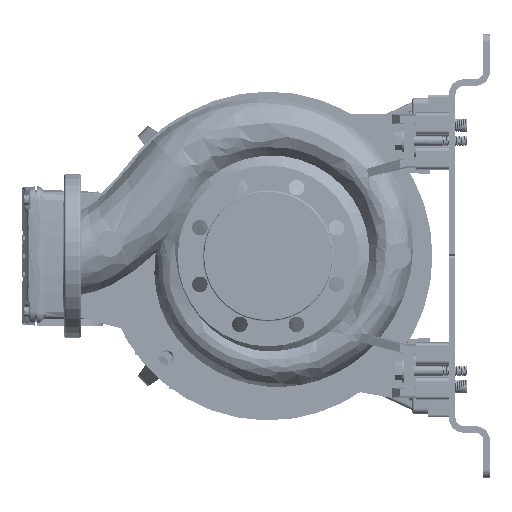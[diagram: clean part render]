
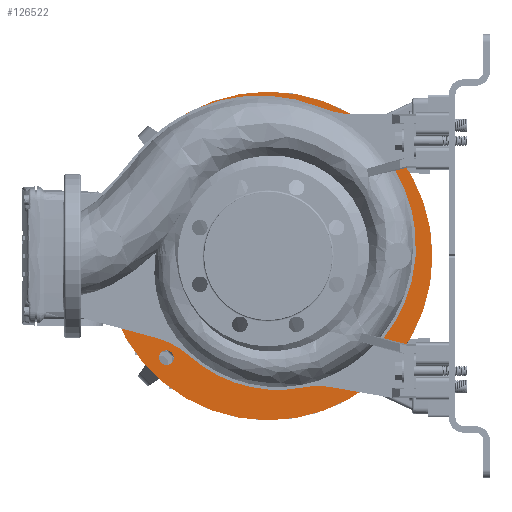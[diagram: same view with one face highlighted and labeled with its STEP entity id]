
A CAD part, left-side view. The second image highlights one B-rep face of the part: STEP entity #126522.
In plain terms, the highlighted planar face has unit normal (-1, 0, 0).
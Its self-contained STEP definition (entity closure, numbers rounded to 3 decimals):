
#533 = DIRECTION ( 'NONE',  ( 1., 0., 0. ) ) ;
#1038 = ORIENTED_EDGE ( 'NONE', *, *, #238441, .T. ) ;
#2653 = AXIS2_PLACEMENT_3D ( 'NONE', #82427, #57229, #98044 ) ;
#3951 = CARTESIAN_POINT ( 'NONE',  ( 249.002, -123.744, 123.745 ) ) ;
#4901 = CARTESIAN_POINT ( 'NONE',  ( 249.002, -151.792, -16.437 ) ) ;
#7619 = AXIS2_PLACEMENT_3D ( 'NONE', #135448, #27248, #72187 ) ;
#8001 = CIRCLE ( 'NONE', #191843, 9. ) ;
#16178 = VERTEX_POINT ( 'NONE', #194541 ) ;
#17540 = FACE_OUTER_BOUND ( 'NONE', #89425, .T. ) ;
#18216 = CARTESIAN_POINT ( 'NONE',  ( 249.002, 123.744, -114.743 ) ) ;
#23103 = FACE_BOUND ( 'NONE', #183301, .T. ) ;
#25611 = CIRCLE ( 'NONE', #191625, 9. ) ;
#27183 = DIRECTION ( 'NONE',  ( 1., 0., 0. ) ) ;
#27248 = DIRECTION ( 'NONE',  ( 1., 0., 0. ) ) ;
#29049 = AXIS2_PLACEMENT_3D ( 'NONE', #208085, #101436, #77582 ) ;
#31453 = ORIENTED_EDGE ( 'NONE', *, *, #219765, .T. ) ;
#33744 = ORIENTED_EDGE ( 'NONE', *, *, #76586, .T. ) ;
#36986 = CIRCLE ( 'NONE', #211801, 23.5 ) ;
#38100 = EDGE_CURVE ( 'NONE', #210175, #260232, #8001, .T. ) ;
#40981 = CIRCLE ( 'NONE', #251649, 9. ) ;
#46985 = FACE_BOUND ( 'NONE', #236104, .T. ) ;
#54430 = DIRECTION ( 'NONE',  ( 0., 0., 1. ) ) ;
#57229 = DIRECTION ( 'NONE',  ( 1., 0., 0. ) ) ;
#57372 = CARTESIAN_POINT ( 'NONE',  ( 249.002, -123.744, -123.743 ) ) ;
#58394 = CARTESIAN_POINT ( 'NONE',  ( 249.002, 0., 152.681 ) ) ;
#60976 = AXIS2_PLACEMENT_3D ( 'NONE', #143013, #224475, #140253 ) ;
#61161 = VERTEX_POINT ( 'NONE', #58394 ) ;
#61845 = AXIS2_PLACEMENT_3D ( 'NONE', #57372, #143067, #117858 ) ;
#63765 = CARTESIAN_POINT ( 'NONE',  ( 249.002, -134.998, 0.001 ) ) ;
#71184 = CARTESIAN_POINT ( 'NONE',  ( 249.002, 0., 0.001 ) ) ;
#71793 = DIRECTION ( 'NONE',  ( 0., 0., -1. ) ) ;
#72187 = DIRECTION ( 'NONE',  ( 0., 0., 1. ) ) ;
#76586 = EDGE_CURVE ( 'NONE', #16178, #194976, #25611, .T. ) ;
#77582 = DIRECTION ( 'NONE',  ( 0., 0., 1. ) ) ;
#77639 = CARTESIAN_POINT ( 'NONE',  ( 249.002, 123.744, -123.743 ) ) ;
#78760 = CARTESIAN_POINT ( 'NONE',  ( 249.002, 0., -152.678 ) ) ;
#79588 = ORIENTED_EDGE ( 'NONE', *, *, #38100, .T. ) ;
#79685 = AXIS2_PLACEMENT_3D ( 'NONE', #108840, #191681, #89160 ) ;
#80454 = CARTESIAN_POINT ( 'NONE',  ( 249.002, -123.744, -114.743 ) ) ;
#82427 = CARTESIAN_POINT ( 'NONE',  ( 249.002, 0., 0.001 ) ) ;
#85590 = AXIS2_PLACEMENT_3D ( 'NONE', #195457, #174388, #71793 ) ;
#87227 = EDGE_CURVE ( 'NONE', #254896, #181186, #108827, .T. ) ;
#89160 = DIRECTION ( 'NONE',  ( 0., 0., 1. ) ) ;
#89425 = EDGE_LOOP ( 'NONE', ( #167694, #212990 ) ) ;
#92013 = EDGE_LOOP ( 'NONE', ( #141711, #172635 ) ) ;
#94046 = AXIS2_PLACEMENT_3D ( 'NONE', #268407, #161739, #115484 ) ;
#94549 = ORIENTED_EDGE ( 'NONE', *, *, #208841, .T. ) ;
#98044 = DIRECTION ( 'NONE',  ( 0., 0., -1. ) ) ;
#101436 = DIRECTION ( 'NONE',  ( 1., 0., 0. ) ) ;
#103298 = FACE_BOUND ( 'NONE', #122072, .T. ) ;
#108748 = DIRECTION ( 'NONE',  ( 0., 0., 1. ) ) ;
#108827 = CIRCLE ( 'NONE', #198587, 200. ) ;
#108840 = CARTESIAN_POINT ( 'NONE',  ( 249.002, 200., 0.001 ) ) ;
#112037 = CARTESIAN_POINT ( 'NONE',  ( 249.002, 123.744, -132.743 ) ) ;
#115484 = DIRECTION ( 'NONE',  ( 0., 0., 1. ) ) ;
#117858 = DIRECTION ( 'NONE',  ( 0., 0., 1. ) ) ;
#119348 = EDGE_LOOP ( 'NONE', ( #205959, #31453, #122391, #94549 ) ) ;
#120276 = CIRCLE ( 'NONE', #61845, 9. ) ;
#122072 = EDGE_LOOP ( 'NONE', ( #262012, #79588 ) ) ;
#122391 = ORIENTED_EDGE ( 'NONE', *, *, #270982, .T. ) ;
#123801 = CIRCLE ( 'NONE', #2653, 152.679 ) ;
#124132 = CIRCLE ( 'NONE', #7619, 9. ) ;
#126522 = ADVANCED_FACE ( 'NONE', ( #17540, #103298, #46985, #23103, #239359, #194488 ), #128504, .T. ) ;
#128262 = VERTEX_POINT ( 'NONE', #260134 ) ;
#128504 = PLANE ( 'NONE',  #79685 ) ;
#129478 = CIRCLE ( 'NONE', #255097, 152.679 ) ;
#130433 = DIRECTION ( 'NONE',  ( 1., 0., 0. ) ) ;
#134272 = ORIENTED_EDGE ( 'NONE', *, *, #235866, .T. ) ;
#134375 = CARTESIAN_POINT ( 'NONE',  ( 249.002, 123.744, 114.745 ) ) ;
#134443 = DIRECTION ( 'NONE',  ( 1., 0., 0. ) ) ;
#135448 = CARTESIAN_POINT ( 'NONE',  ( 249.002, 123.744, 123.745 ) ) ;
#140253 = DIRECTION ( 'NONE',  ( 0., 0., -1. ) ) ;
#141711 = ORIENTED_EDGE ( 'NONE', *, *, #269576, .T. ) ;
#143013 = CARTESIAN_POINT ( 'NONE',  ( 249.002, 0., 0.001 ) ) ;
#143067 = DIRECTION ( 'NONE',  ( 1., 0., 0. ) ) ;
#147632 = CARTESIAN_POINT ( 'NONE',  ( 249.002, 0., -199.999 ) ) ;
#155042 = VERTEX_POINT ( 'NONE', #78760 ) ;
#161739 = DIRECTION ( 'NONE',  ( 1., 0., 0. ) ) ;
#163606 = CIRCLE ( 'NONE', #29049, 9. ) ;
#167694 = ORIENTED_EDGE ( 'NONE', *, *, #87227, .F. ) ;
#170765 = CIRCLE ( 'NONE', #85590, 152.679 ) ;
#170906 = DIRECTION ( 'NONE',  ( 1., 0., 0. ) ) ;
#172635 = ORIENTED_EDGE ( 'NONE', *, *, #259690, .T. ) ;
#173959 = EDGE_CURVE ( 'NONE', #180282, #232636, #124132, .T. ) ;
#174388 = DIRECTION ( 'NONE',  ( 1., 0., 0. ) ) ;
#180282 = VERTEX_POINT ( 'NONE', #134375 ) ;
#181186 = VERTEX_POINT ( 'NONE', #211663 ) ;
#182109 = CIRCLE ( 'NONE', #60976, 200. ) ;
#183301 = EDGE_LOOP ( 'NONE', ( #1038, #33744 ) ) ;
#186429 = CARTESIAN_POINT ( 'NONE',  ( 249.002, 0., 0.001 ) ) ;
#187089 = DIRECTION ( 'NONE',  ( 0., 0., 1. ) ) ;
#188430 = VERTEX_POINT ( 'NONE', #4901 ) ;
#190347 = EDGE_CURVE ( 'NONE', #188430, #155042, #123801, .T. ) ;
#191625 = AXIS2_PLACEMENT_3D ( 'NONE', #3951, #130433, #216019 ) ;
#191681 = DIRECTION ( 'NONE',  ( -1., 0., 0. ) ) ;
#191843 = AXIS2_PLACEMENT_3D ( 'NONE', #260347, #27183, #194418 ) ;
#191971 = DIRECTION ( 'NONE',  ( 0., 0., -1. ) ) ;
#194418 = DIRECTION ( 'NONE',  ( 0., 0., 1. ) ) ;
#194488 = FACE_BOUND ( 'NONE', #119348, .T. ) ;
#194541 = CARTESIAN_POINT ( 'NONE',  ( 249.002, -123.744, 132.745 ) ) ;
#194976 = VERTEX_POINT ( 'NONE', #217011 ) ;
#195457 = CARTESIAN_POINT ( 'NONE',  ( 249.002, 0., 0.001 ) ) ;
#198410 = CIRCLE ( 'NONE', #256720, 9. ) ;
#198587 = AXIS2_PLACEMENT_3D ( 'NONE', #71184, #134443, #222759 ) ;
#205959 = ORIENTED_EDGE ( 'NONE', *, *, #190347, .T. ) ;
#207325 = CARTESIAN_POINT ( 'NONE',  ( 249.002, -151.792, 16.439 ) ) ;
#208085 = CARTESIAN_POINT ( 'NONE',  ( 249.002, -123.744, -123.743 ) ) ;
#208149 = DIRECTION ( 'NONE',  ( 1., 0., 0. ) ) ;
#208841 = EDGE_CURVE ( 'NONE', #254477, #188430, #36986, .T. ) ;
#208968 = EDGE_CURVE ( 'NONE', #260232, #210175, #198410, .T. ) ;
#210175 = VERTEX_POINT ( 'NONE', #18216 ) ;
#211663 = CARTESIAN_POINT ( 'NONE',  ( 249.002, 0., 200.001 ) ) ;
#211801 = AXIS2_PLACEMENT_3D ( 'NONE', #63765, #533, #108748 ) ;
#212990 = ORIENTED_EDGE ( 'NONE', *, *, #233714, .F. ) ;
#216019 = DIRECTION ( 'NONE',  ( 0., 0., 1. ) ) ;
#217011 = CARTESIAN_POINT ( 'NONE',  ( 249.002, -123.744, 114.745 ) ) ;
#219765 = EDGE_CURVE ( 'NONE', #155042, #61161, #170765, .T. ) ;
#222759 = DIRECTION ( 'NONE',  ( 0., 0., -1. ) ) ;
#224475 = DIRECTION ( 'NONE',  ( 1., 0., 0. ) ) ;
#225739 = DIRECTION ( 'NONE',  ( 1., 0., 0. ) ) ;
#227512 = CARTESIAN_POINT ( 'NONE',  ( 249.002, 123.744, 132.745 ) ) ;
#229362 = ORIENTED_EDGE ( 'NONE', *, *, #173959, .T. ) ;
#232636 = VERTEX_POINT ( 'NONE', #227512 ) ;
#233714 = EDGE_CURVE ( 'NONE', #181186, #254896, #182109, .T. ) ;
#235866 = EDGE_CURVE ( 'NONE', #232636, #180282, #277803, .T. ) ;
#236104 = EDGE_LOOP ( 'NONE', ( #229362, #134272 ) ) ;
#238441 = EDGE_CURVE ( 'NONE', #194976, #16178, #40981, .T. ) ;
#239359 = FACE_BOUND ( 'NONE', #92013, .T. ) ;
#251649 = AXIS2_PLACEMENT_3D ( 'NONE', #269240, #225739, #54430 ) ;
#254477 = VERTEX_POINT ( 'NONE', #207325 ) ;
#254896 = VERTEX_POINT ( 'NONE', #147632 ) ;
#255097 = AXIS2_PLACEMENT_3D ( 'NONE', #186429, #170906, #191971 ) ;
#256720 = AXIS2_PLACEMENT_3D ( 'NONE', #77639, #208149, #187089 ) ;
#259690 = EDGE_CURVE ( 'NONE', #266258, #128262, #163606, .T. ) ;
#260134 = CARTESIAN_POINT ( 'NONE',  ( 249.002, -123.744, -132.743 ) ) ;
#260232 = VERTEX_POINT ( 'NONE', #112037 ) ;
#260347 = CARTESIAN_POINT ( 'NONE',  ( 249.002, 123.744, -123.743 ) ) ;
#262012 = ORIENTED_EDGE ( 'NONE', *, *, #208968, .T. ) ;
#266258 = VERTEX_POINT ( 'NONE', #80454 ) ;
#268407 = CARTESIAN_POINT ( 'NONE',  ( 249.002, 123.744, 123.745 ) ) ;
#269240 = CARTESIAN_POINT ( 'NONE',  ( 249.002, -123.744, 123.745 ) ) ;
#269576 = EDGE_CURVE ( 'NONE', #128262, #266258, #120276, .T. ) ;
#270982 = EDGE_CURVE ( 'NONE', #61161, #254477, #129478, .T. ) ;
#277803 = CIRCLE ( 'NONE', #94046, 9. ) ;
